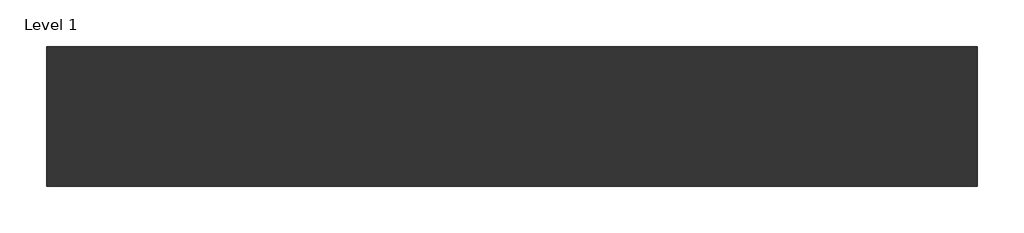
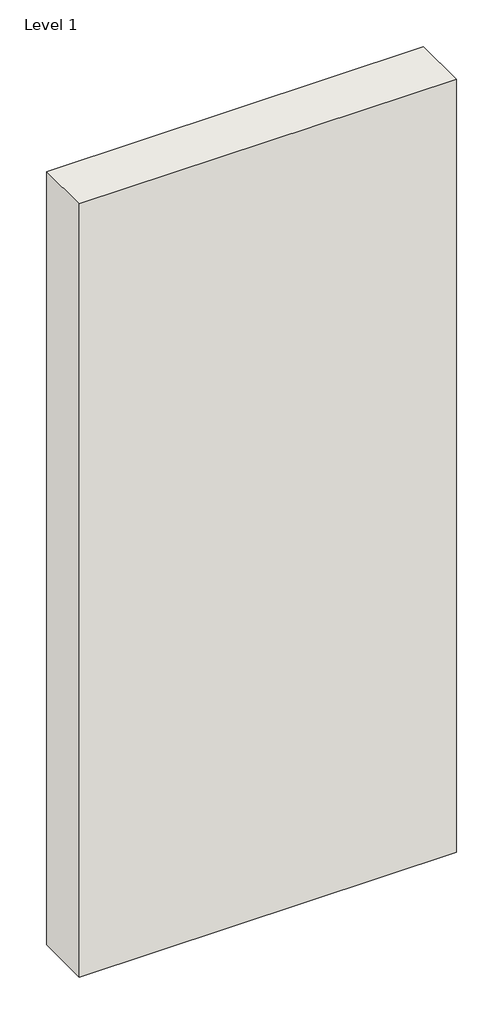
# One storey: 1 wall.
"""IFC4 building model written with IfcOpenShell, lengths in millimetres."""

import ifcopenshell
import ifcopenshell.guid

model = None  # the IFC model being written
_history = None  # IfcOwnerHistory: only IFC2X3 demands one
_inside = {}  # id of a spatial element -> (the spatial element, [elements in it])
_under = {}  # id of a project, library or spatial element -> (it, [spatial elements below it])
_declared = {}  # id of a project -> (the project, [libraries it declares])
_typed = {}  # id of a type object -> (the type object, [elements of that type])
_made_of = {}  # id of a material, layer set ... -> (it, [elements and type objects made of it])


def new_model(schema):
    """Start an empty IFC model of exactly this schema.

    Asked for "IFC4X3", IfcOpenShell would pick the latest addendum, in which some entities
    have other attributes; the version numbers below select the first issue.
    IFC2X3 requires an IfcOwnerHistory on every rooted entity: one is made here for all.
    """
    global model, _history
    if schema == "IFC4X3":
        model = ifcopenshell.file(schema_version=(4, 3, 0, 0))
    else:
        model = ifcopenshell.file(schema=schema)
    _inside.clear()
    _under.clear()
    _declared.clear()
    _typed.clear()
    _made_of.clear()
    _history = None
    if model.schema == "IFC2X3":
        org = make("IfcOrganization", Name="unknown")
        user = make(
            "IfcPersonAndOrganization",
            ThePerson=make("IfcPerson", FamilyName="unknown"),
            TheOrganization=org,
        )
        app = make(
            "IfcApplication",
            ApplicationDeveloper=org,
            Version="unknown",
            ApplicationFullName="unknown",
            ApplicationIdentifier="unknown",
        )
        _history = make(
            "IfcOwnerHistory",
            OwningUser=user,
            OwningApplication=app,
            ChangeAction="ADDED",
            CreationDate=0,
        )
    return model


def make(cls, **values):
    """One entity of the class cls with the attributes given. An attribute that is None is left unset."""
    return model.create_entity(
        cls, **{name: value for name, value in values.items() if value is not None}
    )


def rooted(cls, **values):
    """An entity with a GlobalId (a new one), such as an element, a storey or a relation."""
    return make(cls, GlobalId=ifcopenshell.guid.new(), OwnerHistory=_history, **values)


def si_unit(unit_type, name, prefix=None):
    """IfcSIUnit, for example si_unit("LENGTHUNIT", "METRE", prefix="MILLI")."""
    return make("IfcSIUnit", UnitType=unit_type, Prefix=prefix, Name=name)


def assignment(units):
    """IfcUnitAssignment: the units of a project."""
    return None if units is None else make("IfcUnitAssignment", Units=units)


def point(xyz):
    """IfcCartesianPoint."""
    return None if xyz is None else make("IfcCartesianPoint", Coordinates=xyz)


def direction(xyz):
    """IfcDirection."""
    return None if xyz is None else make("IfcDirection", DirectionRatios=xyz)


def frame(location, z_axis=None, x_axis=None):
    """IfcAxis2Placement3D, a coordinate frame: its origin and axes. An axis left out is left unset."""
    return make(
        "IfcAxis2Placement3D",
        Location=point(location),
        Axis=direction(z_axis),
        RefDirection=direction(x_axis),
    )


def origin():
    """The frame at (0, 0, 0) with its axes left unset."""
    return frame((0.0, 0.0, 0.0))


def origin_with_axes():
    """The frame at (0, 0, 0) with the z axis (0, 0, 1) and the x axis (1, 0, 0) written out."""
    return frame((0.0, 0.0, 0.0), z_axis=(0.0, 0.0, 1.0), x_axis=(1.0, 0.0, 0.0))


def place(relative_to, where):
    """IfcLocalPlacement: puts the frame where relative to a parent placement (None: the world)."""
    return make(
        "IfcLocalPlacement", PlacementRelTo=relative_to, RelativePlacement=where
    )


def context(
    kind, dimensions, precision=None, world=None, true_north=None, identifier=None
):
    """IfcGeometricRepresentationContext, for example the 3D "Model" context."""
    return make(
        "IfcGeometricRepresentationContext",
        ContextIdentifier=identifier,
        ContextType=kind,
        CoordinateSpaceDimension=dimensions,
        Precision=precision,
        WorldCoordinateSystem=world,
        TrueNorth=true_north,
    )


def project(units=None, contexts=None):
    """IfcProject with its units and contexts."""
    return rooted(
        "IfcProject",
        Name="project",
        RepresentationContexts=contexts,
        UnitsInContext=assignment(units),
    )


def spatial(cls, under=None, at=None, **own):
    """A site, building, storey or space (cls), placed at a placement, below another one or the project."""
    s = rooted(cls, ObjectPlacement=at, **own)
    if under is not None:
        _under.setdefault(under.id(), (under, []))[1].append(s)
    return s


def polyline(points):
    """IfcPolyline through the points."""
    return make("IfcPolyline", Points=[point(p) for p in points])


def outline(outer, holes=None, kind="AREA"):
    """IfcArbitraryClosedProfileDef: a profile drawn as a closed curve; with holes, ...WithVoids."""
    if holes is None:
        return make("IfcArbitraryClosedProfileDef", ProfileType=kind, OuterCurve=outer)
    return make(
        "IfcArbitraryProfileDefWithVoids",
        ProfileType=kind,
        OuterCurve=outer,
        InnerCurves=holes,
    )


def extrude(swept, where, along, depth):
    """IfcExtrudedAreaSolid: the profile swept, set in the frame where, extruded along a direction by depth."""
    return make(
        "IfcExtrudedAreaSolid",
        SweptArea=swept,
        Position=where,
        ExtrudedDirection=direction(along),
        Depth=depth,
    )


def shape(context_of_items, identifier, shape_type, items):
    """IfcShapeRepresentation: the items that make up one representation, for example the "Body"."""
    return make(
        "IfcShapeRepresentation",
        ContextOfItems=context_of_items,
        RepresentationIdentifier=identifier,
        RepresentationType=shape_type,
        Items=items,
    )


def made_of(thing, what):
    """Note that an element or type object is made of a material, layer set ...; save() writes the relation."""
    if what is not None:
        _made_of.setdefault(what.id(), (what, []))[1].append(thing)
    return thing


def element(
    cls,
    number,
    at=None,
    inside=None,
    cuts=None,
    type_object=None,
    material=None,
    context=None,
    identifier="Body",
    shape_type=None,
    held_by="IfcProductDefinitionShape",
    body=None,
    shapes=None,
    **own,
):
    """One element of the class cls, such as IfcWall. Its Tag is "e" and its number.

    at: its placement. inside: the storey or other place that contains it. cuts: it is an
    opening in that element (IfcRelVoidsElement). A single representation is given by context,
    identifier, shape_type and body (its items); several are given by shapes. held_by: the class
    of the entity that holds the representations. save() writes the other relations.
    """
    e = rooted(cls, Tag="e%d" % number, ObjectPlacement=at, **own)
    if body is not None:
        shapes = [shape(context, identifier, shape_type, body)]
    if shapes is not None:
        e.Representation = make(held_by, Representations=shapes)
    if inside is not None:
        _inside.setdefault(inside.id(), (inside, []))[1].append(e)
    if cuts is not None:
        rooted(
            "IfcRelVoidsElement", RelatingBuildingElement=cuts, RelatedOpeningElement=e
        )
    if type_object is not None:
        _typed.setdefault(type_object.id(), (type_object, []))[1].append(e)
    return made_of(e, material)


def aggregate(whole, parts):
    """IfcRelAggregates: a whole, such as a stair, and the parts it consists of."""
    return rooted("IfcRelAggregates", RelatingObject=whole, RelatedObjects=parts)


def save(model, path):
    """Write the relations noted so far, then the file.

    IfcRelAggregates (storeys below a building ...), IfcRelContainedInSpatialStructure (elements
    in a storey), IfcRelDefinesByType, IfcRelAssociatesMaterial and IfcRelDeclares: one each for
    every whole, place, type object, material and project.
    """
    for whole, parts in _under.values():
        aggregate(whole, parts)
    for where, things in _inside.values():
        rooted(
            "IfcRelContainedInSpatialStructure",
            RelatedElements=things,
            RelatingStructure=where,
        )
    for kind, things in _typed.values():
        rooted("IfcRelDefinesByType", RelatedObjects=things, RelatingType=kind)
    for what, things in _made_of.values():
        rooted("IfcRelAssociatesMaterial", RelatedObjects=things, RelatingMaterial=what)
    for by, libraries in _declared.values():
        rooted("IfcRelDeclares", RelatingContext=by, RelatedDefinitions=libraries)
    model.write(path)


model = new_model("IFC4")

# Units and contexts
model_context = context("Model", 3, world=origin())
ifc_project = project(units=[si_unit("LENGTHUNIT", "METRE", prefix="MILLI")], contexts=[model_context])

# Site, building, storey
site = spatial("IfcSite", under=ifc_project)
building = spatial("IfcBuilding", under=site)
storey = spatial("IfcBuildingStorey", under=building, Name="Level 1", Elevation=0.0)

# Wall
placement = place(None, origin())
element("IfcWall", 1, ObjectType="TF PROFI 180mm", at=placement, inside=storey, context=model_context, shape_type="SweptSolid", body=[
    extrude(outline(polyline([(31256.8291324, 25951.0746561), (30056.8291324, 25951.0746561), (30056.8291324, 26131.0746561), (31256.8291324, 26131.0746561), (31256.8291324, 25951.0746561)])), origin_with_axes(), (0.0, 0.0, 1.0), 2600.0),
])

save(model, "model.ifc")
